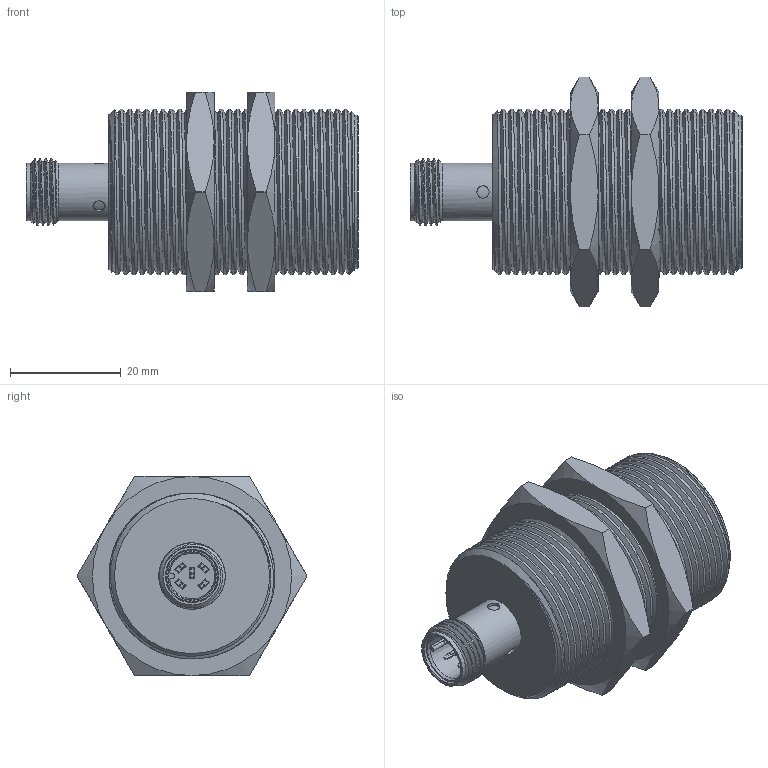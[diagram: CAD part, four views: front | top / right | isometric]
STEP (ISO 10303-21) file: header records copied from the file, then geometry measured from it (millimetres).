
FILE_DESCRIPTION( ( 'Unknown' ), '1' );
FILE_NAME( 'N:/Engineering/CAD/Wirbelstrom/IC/IC30/IC30.stp', 'Unknown', ( 'Unknown' ), ( 'Unknown' ), 'PSStep 17.0.49', 'Unknown', ' ' );
FILE_SCHEMA( ( 'AUTOMOTIVE_DESIGN { 1 0 10303 214 1 1 1 1 }' ) );
Length unit declared in the file: millimetre
Products named in the file (3): Assem1; IR30.xxxx-F60.xxxx.7BO; 101477
Assembly tree (3 placements, depth 2):
  Assem1
    IR30.xxxx-F60.xxxx.7BO
    101477  x2
Bounding box: 60 x 41.56 x 36 mm (x, y, z)
Volume: 32132.4 mm3; surface area: 12874.1 mm2
Topology: 3 solids, 3 shells, 219 faces, 547 edges, 346 vertices
Faces by surface type: plane 120, cylinder 56, cone 35, bspline 8
Full cylindrical faces by diameter (mm): 2.2 x3, 9.45 x1, 10.45 x2, 27.7 x1
Entity records: 14248 total; most frequent: CARTESIAN_POINT 8308, ORIENTED_EDGE 900, DIRECTION 896, EDGE_CURVE 450, AXIS2_PLACEMENT_3D 314, VERTEX_POINT 292, LINE 268, VECTOR 268
